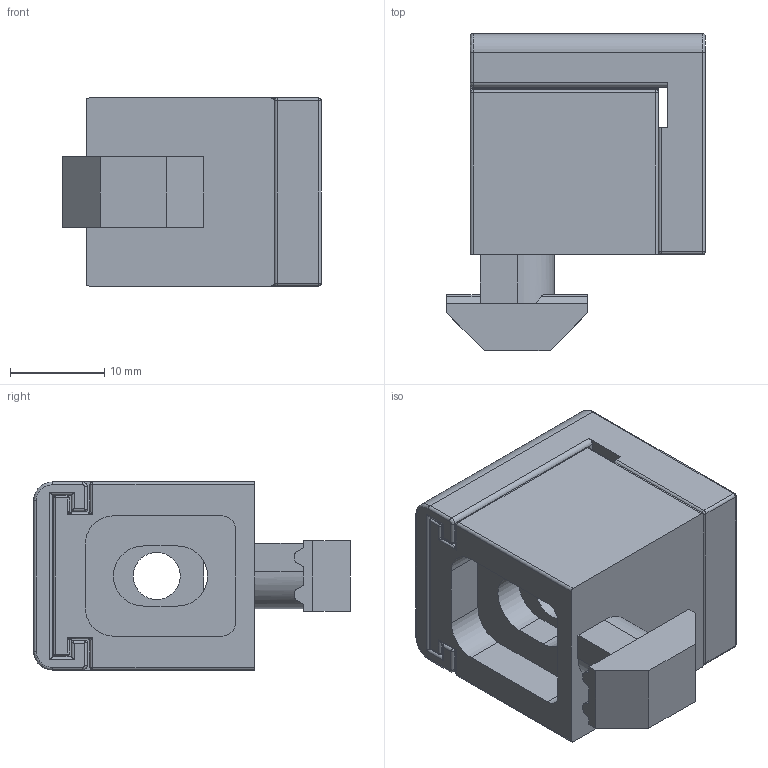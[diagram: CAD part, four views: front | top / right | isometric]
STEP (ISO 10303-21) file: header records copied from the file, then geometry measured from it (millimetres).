
FILE_DESCRIPTION (( 'STEP AP203' ), '1' );
FILE_NAME ('28406_MULPAM6.STEP', '2018-04-23T09:16:16', ( '' ), ( '' ), 'SwSTEP 2.0', 'SolidWorks 2017', '' );
FILE_SCHEMA (( 'CONFIG_CONTROL_DESIGN' ));
Length unit declared in the file: millimetre
Products named in the file (1): 28406_MULPAM6
Bounding box: 27.5 x 33.7 x 20 mm (x, y, z)
Volume: 8672.5 mm3; surface area: 7252.1 mm2
Topology: 3 solids, 3 shells, 254 faces, 644 edges, 368 vertices
Faces by surface type: cylinder 109, plane 98, bspline 47
Entity records: 8594 total; most frequent: CARTESIAN_POINT 2829, ORIENTED_EDGE 1224, DIRECTION 1139, EDGE_CURVE 612, AXIS2_PLACEMENT_3D 392, VERTEX_POINT 368, VECTOR 355, LINE 355
